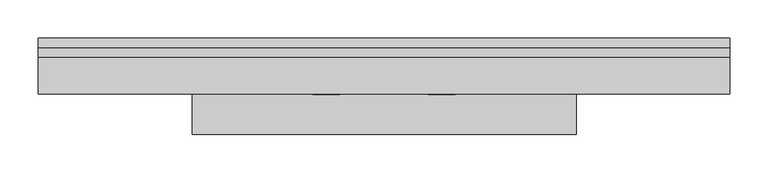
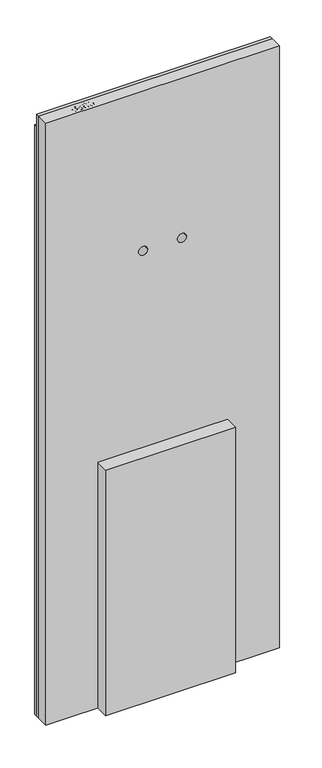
"""IFC4 building model written with IfcOpenShell, lengths in millimetres: proxy geometry, ParedeSanita_Blufab : Parede Sanita - Largura 90 cm."""

from ifc_helpers import new_model, si_unit, point, frame, frame_2d, origin, origin_with_axes, place, context, project, spatial, polyline, circle_curve, trimmed, segment, composite_curve, outline, extrude, source, transform, mapped, element, save


def generic_models_0c33305c(model_context):
    return source(origin(), model_context, "Body", "SweptSolid", [
        extrude(outline(polyline([(700.0, -25.0126803), (700.0, -125.0126803), (200.0, -125.0126803), (200.0, -25.0126803), (700.0, -25.0126803)])), origin_with_axes(), (0.0, 0.0, 1.0), 1000.0),
        extrude(outline(polyline([(2450.0, 0.0), (0.0, 0.0), (0.0, 900.0), (2450.0, 900.0), (2450.0, 0.0)]), holes=[composite_curve([segment(trimmed(circle_curve(frame_2d((360.0, 553.0)), 22.5), [point((360.0, 530.5))], [point((360.0, 575.5))], True, "CARTESIAN"), True, "CONTINUOUS"), segment(trimmed(circle_curve(frame_2d((360.0, 553.0)), 22.5), [point((360.0, 575.5))], [point((360.0, 530.5))], True, "CARTESIAN"), True, "CONTINUOUS")], self_intersect=False), composite_curve([segment(trimmed(circle_curve(frame_2d((360.0, 347.0)), 25.0), [point((360.0, 322.0))], [point((360.0, 372.0))], True, "CARTESIAN"), True, "CONTINUOUS"), segment(trimmed(circle_curve(frame_2d((360.0, 347.0)), 25.0), [point((360.0, 372.0))], [point((360.0, 322.0))], True, "CARTESIAN"), True, "CONTINUOUS")], self_intersect=False), composite_curve([segment(trimmed(circle_curve(frame_2d((1800.0, 375.0)), 17.5), [point((1800.0, 357.5))], [point((1800.0, 392.5))], True, "CARTESIAN"), True, "CONTINUOUS"), segment(trimmed(circle_curve(frame_2d((1800.0, 375.0)), 17.5), [point((1800.0, 392.5))], [point((1800.0, 357.5))], True, "CARTESIAN"), True, "CONTINUOUS")], self_intersect=False), composite_curve([segment(trimmed(circle_curve(frame_2d((1800.0, 525.0)), 17.5), [point((1800.0, 507.5))], [point((1800.0, 542.5))], True, "CARTESIAN"), True, "CONTINUOUS"), segment(trimmed(circle_curve(frame_2d((1800.0, 525.0)), 17.5), [point((1800.0, 542.5))], [point((1800.0, 507.5))], True, "CARTESIAN"), True, "CONTINUOUS")], self_intersect=False), composite_curve([segment(trimmed(circle_curve(frame_2d((393.0, 450.0)), 35.0), [point((393.0, 415.0))], [point((393.0, 485.0))], True, "CARTESIAN"), True, "CONTINUOUS"), segment(trimmed(circle_curve(frame_2d((393.0, 450.0)), 35.0), [point((393.0, 485.0))], [point((393.0, 415.0))], True, "CARTESIAN"), True, "CONTINUOUS")], self_intersect=False), composite_curve([segment(trimmed(circle_curve(frame_2d((256.0, 450.0)), 55.0), [point((256.0, 395.0))], [point((256.0, 505.0))], True, "CARTESIAN"), True, "CONTINUOUS"), segment(trimmed(circle_curve(frame_2d((256.0, 450.0)), 55.0), [point((256.0, 505.0))], [point((256.0, 395.0))], True, "CARTESIAN"), True, "CONTINUOUS")], self_intersect=False)]), frame((0.0, -73.0, 0.0), z_axis=(0.0, 1.0, 0.0), x_axis=(0.0, 0.0, 1.0)), (0.0, 0.0, 1.0), 47.9873197),
        extrude(outline(polyline([(2450.0, 0.0), (0.0, 0.0), (0.0, 900.0), (2450.0, 900.0), (2450.0, 0.0)]), holes=[composite_curve([segment(trimmed(circle_curve(frame_2d((360.0, 553.0)), 22.5), [point((360.0, 530.5))], [point((360.0, 575.5))], True, "CARTESIAN"), True, "CONTINUOUS"), segment(trimmed(circle_curve(frame_2d((360.0, 553.0)), 22.5), [point((360.0, 575.5))], [point((360.0, 530.5))], True, "CARTESIAN"), True, "CONTINUOUS")], self_intersect=False), composite_curve([segment(trimmed(circle_curve(frame_2d((360.0, 347.0)), 25.0), [point((360.0, 322.0))], [point((360.0, 372.0))], True, "CARTESIAN"), True, "CONTINUOUS"), segment(trimmed(circle_curve(frame_2d((360.0, 347.0)), 25.0), [point((360.0, 372.0))], [point((360.0, 322.0))], True, "CARTESIAN"), True, "CONTINUOUS")], self_intersect=False), composite_curve([segment(trimmed(circle_curve(frame_2d((1800.0, 375.0)), 17.5), [point((1800.0, 357.5))], [point((1800.0, 392.5))], True, "CARTESIAN"), True, "CONTINUOUS"), segment(trimmed(circle_curve(frame_2d((1800.0, 375.0)), 17.5), [point((1800.0, 392.5))], [point((1800.0, 357.5))], True, "CARTESIAN"), True, "CONTINUOUS")], self_intersect=False), composite_curve([segment(trimmed(circle_curve(frame_2d((1800.0, 525.0)), 17.5), [point((1800.0, 507.5))], [point((1800.0, 542.5))], True, "CARTESIAN"), True, "CONTINUOUS"), segment(trimmed(circle_curve(frame_2d((1800.0, 525.0)), 17.5), [point((1800.0, 542.5))], [point((1800.0, 507.5))], True, "CARTESIAN"), True, "CONTINUOUS")], self_intersect=False), composite_curve([segment(trimmed(circle_curve(frame_2d((393.0, 450.0)), 35.0), [point((393.0, 415.0))], [point((393.0, 485.0))], True, "CARTESIAN"), True, "CONTINUOUS"), segment(trimmed(circle_curve(frame_2d((393.0, 450.0)), 35.0), [point((393.0, 485.0))], [point((393.0, 415.0))], True, "CARTESIAN"), True, "CONTINUOUS")], self_intersect=False), composite_curve([segment(trimmed(circle_curve(frame_2d((256.0, 450.0)), 55.0), [point((256.0, 395.0))], [point((256.0, 505.0))], True, "CARTESIAN"), True, "CONTINUOUS"), segment(trimmed(circle_curve(frame_2d((256.0, 450.0)), 55.0), [point((256.0, 505.0))], [point((256.0, 395.0))], True, "CARTESIAN"), True, "CONTINUOUS")], self_intersect=False)]), frame((0.0, -25.0126803, 0.0), z_axis=(0.0, 1.0, 0.0), x_axis=(0.0, 0.0, 1.0)), (0.0, 0.0, 1.0), 12.5),
        extrude(outline(polyline([(2400.0, 0.0), (0.0, 0.0), (0.0, 900.0), (2400.0, 900.0), (2400.0, 0.0)]), holes=[composite_curve([segment(trimmed(circle_curve(frame_2d((360.0, 553.0)), 22.5), [point((360.0, 530.5))], [point((360.0, 575.5))], True, "CARTESIAN"), True, "CONTINUOUS"), segment(trimmed(circle_curve(frame_2d((360.0, 553.0)), 22.5), [point((360.0, 575.5))], [point((360.0, 530.5))], True, "CARTESIAN"), True, "CONTINUOUS")], self_intersect=False), composite_curve([segment(trimmed(circle_curve(frame_2d((360.0, 347.0)), 25.0), [point((360.0, 322.0))], [point((360.0, 372.0))], True, "CARTESIAN"), True, "CONTINUOUS"), segment(trimmed(circle_curve(frame_2d((360.0, 347.0)), 25.0), [point((360.0, 372.0))], [point((360.0, 322.0))], True, "CARTESIAN"), True, "CONTINUOUS")], self_intersect=False), composite_curve([segment(trimmed(circle_curve(frame_2d((1800.0, 375.0)), 17.5), [point((1800.0, 357.5))], [point((1800.0, 392.5))], True, "CARTESIAN"), True, "CONTINUOUS"), segment(trimmed(circle_curve(frame_2d((1800.0, 375.0)), 17.5), [point((1800.0, 392.5))], [point((1800.0, 357.5))], True, "CARTESIAN"), True, "CONTINUOUS")], self_intersect=False), composite_curve([segment(trimmed(circle_curve(frame_2d((1800.0, 525.0)), 17.5), [point((1800.0, 507.5))], [point((1800.0, 542.5))], True, "CARTESIAN"), True, "CONTINUOUS"), segment(trimmed(circle_curve(frame_2d((1800.0, 525.0)), 17.5), [point((1800.0, 542.5))], [point((1800.0, 507.5))], True, "CARTESIAN"), True, "CONTINUOUS")], self_intersect=False), composite_curve([segment(trimmed(circle_curve(frame_2d((393.0, 450.0)), 35.0), [point((393.0, 415.0))], [point((393.0, 485.0))], True, "CARTESIAN"), True, "CONTINUOUS"), segment(trimmed(circle_curve(frame_2d((393.0, 450.0)), 35.0), [point((393.0, 485.0))], [point((393.0, 415.0))], True, "CARTESIAN"), True, "CONTINUOUS")], self_intersect=False), composite_curve([segment(trimmed(circle_curve(frame_2d((256.0, 450.0)), 55.0), [point((256.0, 395.0))], [point((256.0, 505.0))], True, "CARTESIAN"), True, "CONTINUOUS"), segment(trimmed(circle_curve(frame_2d((256.0, 450.0)), 55.0), [point((256.0, 505.0))], [point((256.0, 395.0))], True, "CARTESIAN"), True, "CONTINUOUS")], self_intersect=False)]), frame((0.0, -12.5, 0.0), z_axis=(0.0, 1.0, 0.0), x_axis=(0.0, 0.0, 1.0)), (0.0, 0.0, 1.0), 12.5),
        extrude(outline(polyline([(102.4402157, -34.0063401), (106.2073273, -34.0063401), (106.2073273, -46.2494529), (113.8666304, -46.2494529), (122.6185431, -48.9129186), (125.0428854, -55.4244299), (124.1452534, -59.5336718), (121.7724145, -62.4472972), (118.1119887, -63.8562852), (113.609113, -64.1432332), (102.4402157, -64.1432332), (102.4402157, -34.0063401)]), holes=[polyline([(106.2073273, -50.0165646), (106.2073273, -60.3761215), (113.999068, -60.3761215), (117.7661796, -60.1186041), (120.3082442, -58.4116317), (121.2757738, -55.2919924), (119.6350201, -51.3998009), (114.0873596, -50.0165646), (106.2073273, -50.0165646)])]), origin_with_axes(), (0.0, 0.0, 1.0), 2450.0),
        extrude(outline(polyline([(128.8099971, -44.3658971), (130.4360355, -38.6122227), (134.6924302, -34.8009652), (141.4209919, -33.5354512), (147.119484, -34.7089947), (151.0043178, -37.9978598), (152.3544448, -42.5044142), (151.1809012, -46.7644877), (147.5351906, -49.8179083), (140.8691689, -51.7088217), (134.7181819, -53.8131067), (133.5188866, -56.4250689), (135.2111438, -59.5520659), (140.6042938, -60.8470105), (145.9827286, -59.5373506), (148.1164442, -55.667232), (151.8835558, -55.667232), (150.3899549, -60.3834792), (146.4168294, -63.5399067), (140.457141, -64.6141221), (134.8726924, -63.5877314), (131.0577561, -60.5784566), (129.751775, -56.3147043), (130.8075963, -52.5696656), (134.0118485, -49.7664048), (139.9163545, -47.9086007), (145.4014751, -46.4701821), (147.9619337, -44.7595308), (148.5873331, -42.4087649), (147.752241, -39.8814156), (145.2101764, -37.9905021), (141.2738391, -37.3025628), (136.7562482, -38.2112313), (133.7911193, -40.5951067), (132.5771087, -44.3658971), (128.8099971, -44.3658971)])), origin_with_axes(), (0.0, 0.0, 1.0), 2450.0),
        extrude(outline(polyline([(157.0633343, -41.5405634), (159.7635882, -35.6360574), (165.5540508, -33.5354512), (171.3702651, -35.316), (175.111625, -40.4994573), (176.3697814, -49.6486826), (175.1079462, -58.0805379), (171.4144109, -62.5686982), (166.0470126, -64.1432332), (159.2890204, -61.3841182), (156.5924454, -54.1000547), (159.1639405, -47.044078), (165.4584014, -44.3658971), (169.5897162, -45.4621855), (172.6247427, -47.5811858), (172.0802774, -43.2107476), (170.8478727, -39.9365979), (168.7803759, -38.0199327), (165.7306341, -37.3025628), (162.5227031, -38.4172453), (160.8304459, -42.0114523), (157.0633343, -41.5405634)]), holes=[polyline([(172.6026698, -54.1883464), (170.8993761, -49.7406531), (166.5546898, -48.1330087), (162.0297412, -49.7406531), (160.359557, -53.9161137), (162.1253906, -58.5771786), (166.6576967, -60.3761215), (170.9766314, -58.7059373), (172.6026698, -54.1883464)])]), origin_with_axes(), (0.0, 0.0, 1.0), 2450.0),
        extrude(outline(polyline([(179.6660041, -48.8319845), (182.6679212, -36.4049307), (189.5546721, -33.5354512), (195.0692232, -35.1872413), (198.3470518, -40.1977941), (199.4433402, -48.8319845), (198.7590796, -55.9137129), (196.9932461, -60.3724427), (193.9545408, -63.1720247), (189.5546721, -64.1432332), (184.0621939, -62.5024795), (180.7733289, -57.5029632), (179.6660041, -48.8319845)]), holes=[polyline([(183.4331157, -48.8393422), (185.2578104, -58.3601282), (189.5105263, -60.3761215), (193.9692561, -58.0878955), (195.6762285, -48.8393422), (193.9103949, -39.4914607), (189.5546721, -37.3025628), (185.1989493, -39.484103), (183.4331157, -48.8393422)])]), origin_with_axes(), (0.0, 0.0, 1.0), 2450.0),
    ])


if __name__ == "__main__":
    model = new_model("IFC4")
    model_context = context("Model", 3, world=origin())
    ifc_project = project(units=[si_unit("LENGTHUNIT", "METRE", prefix="MILLI")], contexts=[model_context])
    site = spatial("IfcSite", under=ifc_project)
    building = spatial("IfcBuilding", under=site)
    placement = place(None, origin())
    generic_models_shape = generic_models_0c33305c(model_context)
    element("IfcBuildingElementProxy", 1, Name="ParedeSanita_Blufab : Parede Sanita - Largura 90 cm", ObjectType="ParedeSanita_Blufab : Parede Sanita - Largura 90 cm", at=placement, inside=building, context=model_context, shape_type="MappedRepresentation", body=[
        mapped(generic_models_shape, transform((0.0, 0.0, 0.0), x_axis=(1.0, 0.0, 0.0), y_axis=(0.0, 1.0, 0.0), z_axis=(0.0, 0.0, 1.0))),
    ])
    save(model, "model.ifc")
